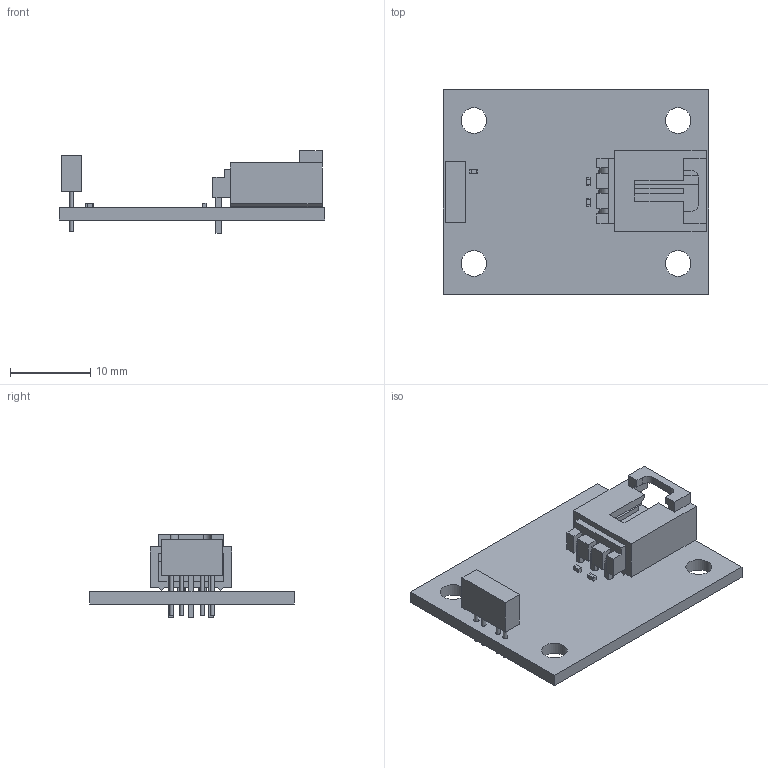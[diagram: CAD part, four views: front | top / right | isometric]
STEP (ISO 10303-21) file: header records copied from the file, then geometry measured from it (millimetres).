
FILE_DESCRIPTION(('Open CASCADE Model'),'2;1');
FILE_NAME('Open CASCADE Shape Model','2013-01-30T11:07:07',('Author'),( 'Open CASCADE'),'Open CASCADE STEP processor 6.2','Open CASCADE 6.2' ,'Unknown');
FILE_SCHEMA(('AUTOMOTIVE_DESIGN { 1 0 10303 214 1 1 1 1 }'));
Length unit declared in the file: millimetre
Products named in the file (22): PCB; Board; U1; 542922672; Extruded; 542628800; Cylinder; R2; 402949312; 402949056; R1; 402949568; 402949440; J1; 705530002; Open CASCADE STEP translator 6.2 2.5.1.1; Open CASCADE STEP translator 6.2 2.5.1.2; C1
Assembly tree (26 placements, depth 4):
  PCB
    Board
    U1
      542922672
        Extruded
      542628800  x4
        Cylinder
    R2
      402949312
        Extruded
      402949056
        Extruded
    R1
      402949568
        Extruded
      402949440
        Extruded
    J1
      705530002
        Open CASCADE STEP translator 6.2 2.5.1.1
        Open CASCADE STEP translator 6.2 2.5.1.2
    C1
      402949568
        Extruded
      402949440
        Extruded
Bounding box: 33.02 x 25.4 x 10.29 mm (x, y, z)
Volume: 1754.3 mm3; surface area: 2851.4 mm2
Topology: 13 solids, 13 shells, 185 faces, 458 edges, 310 vertices
Faces by surface type: plane 162, cylinder 23
Full cylindrical faces by diameter (mm): 0.5 x4, 0.65 x4, 0.965 x3, 3.175 x4
Entity records: 10920 total; most frequent: CARTESIAN_POINT 1950, DIRECTION 1621, LINE 1137, VECTOR 1137, ORIENTED_EDGE 832, PCURVE 832, DEFINITIONAL_REPRESENTATION 832, EDGE_CURVE 416
